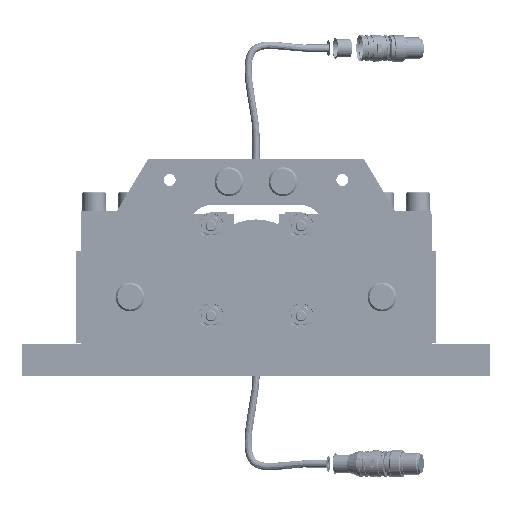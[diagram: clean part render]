
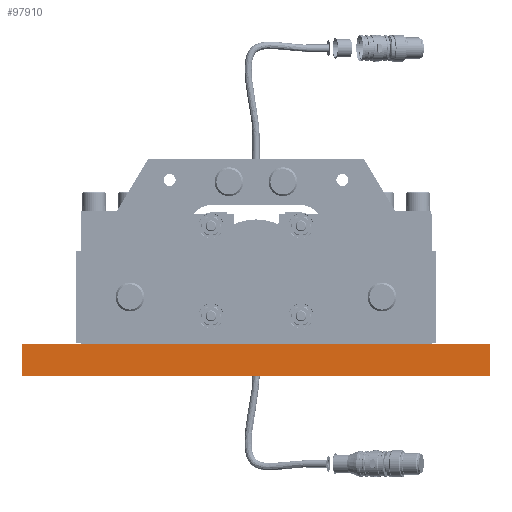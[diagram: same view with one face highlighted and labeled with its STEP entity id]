
A CAD part, front view. The second image highlights one B-rep face of the part: STEP entity #97910.
In plain terms, the highlighted planar face has unit normal (0, -1, 0).
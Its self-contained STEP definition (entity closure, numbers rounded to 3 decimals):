
#6057=PLANE('',#103613);
#9248=FACE_OUTER_BOUND('',#14747,.T.);
#14747=EDGE_LOOP('',(#62473,#62474,#62475,#62476));
#20906=LINE('',#136614,#27756);
#20939=LINE('',#136847,#27789);
#20942=LINE('',#136853,#27792);
#20943=LINE('',#136855,#27793);
#27756=VECTOR('',#112282,10.);
#27789=VECTOR('',#112551,10.);
#27792=VECTOR('',#112558,10.);
#27793=VECTOR('',#112561,10.);
#38169=VERTEX_POINT('',#136611);
#38170=VERTEX_POINT('',#136613);
#38251=VERTEX_POINT('',#136843);
#38253=VERTEX_POINT('',#136851);
#47799=EDGE_CURVE('',#38170,#38169,#20906,.T.);
#47910=EDGE_CURVE('',#38251,#38170,#20939,.T.);
#47913=EDGE_CURVE('',#38169,#38253,#20942,.T.);
#47914=EDGE_CURVE('',#38253,#38251,#20943,.T.);
#62473=ORIENTED_EDGE('',*,*,#47914,.T.);
#62474=ORIENTED_EDGE('',*,*,#47910,.T.);
#62475=ORIENTED_EDGE('',*,*,#47799,.T.);
#62476=ORIENTED_EDGE('',*,*,#47913,.T.);
#97910=ADVANCED_FACE('',(#9248),#6057,.T.);
#103613=AXIS2_PLACEMENT_3D('',#136854,#112559,#112560);
#112282=DIRECTION('',(1.,0.,0.));
#112551=DIRECTION('',(0.,0.,-1.));
#112558=DIRECTION('',(0.,0.,1.));
#112559=DIRECTION('center_axis',(0.,-1.,0.));
#112560=DIRECTION('ref_axis',(0.,0.,-1.));
#112561=DIRECTION('',(-1.,0.,0.));
#136611=CARTESIAN_POINT('',(130.,-69.85,-9.));
#136613=CARTESIAN_POINT('',(-130.,-69.85,-9.));
#136614=CARTESIAN_POINT('',(-130.,-69.85,-9.));
#136843=CARTESIAN_POINT('',(-130.,-69.85,9.));
#136847=CARTESIAN_POINT('',(-130.,-69.85,0.));
#136851=CARTESIAN_POINT('',(130.,-69.85,9.));
#136853=CARTESIAN_POINT('',(130.,-69.85,0.));
#136854=CARTESIAN_POINT('Origin',(130.,-69.85,0.));
#136855=CARTESIAN_POINT('',(-130.,-69.85,9.));
